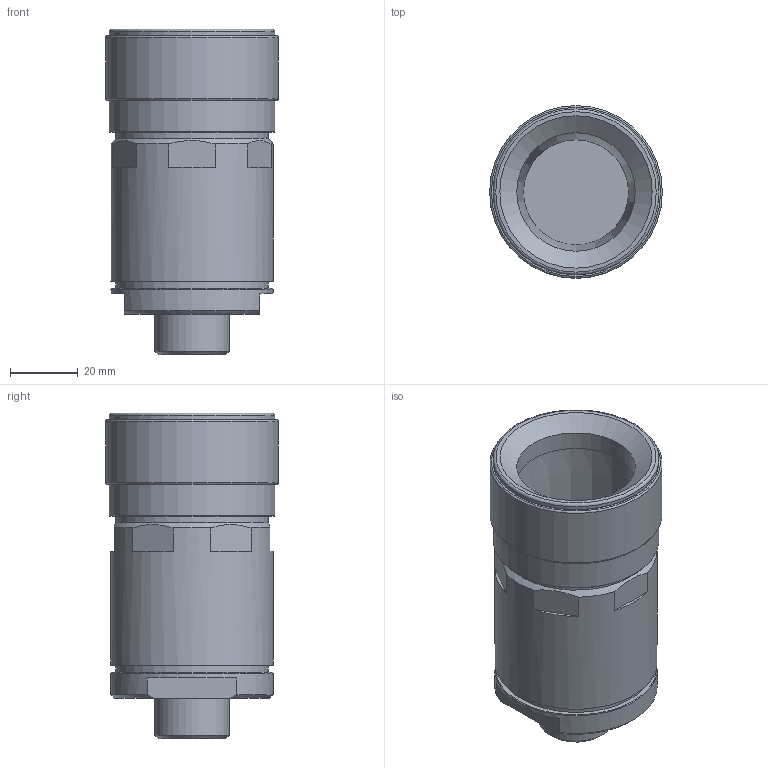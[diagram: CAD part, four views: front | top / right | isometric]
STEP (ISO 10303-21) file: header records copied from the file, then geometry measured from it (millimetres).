
FILE_DESCRIPTION(('STEP AP203'),'1');
FILE_NAME(').stp','2021-06-21T07:32:39',(' '),(' '),'Spatial InterOp 3D',' ',' ');
FILE_SCHEMA(('CONFIG_CONTROL_DESIGN'));
Length unit declared in the file: millimetre
Products named in the file (1): 1
Bounding box: 51 x 51 x 96.2 mm (x, y, z)
Volume: 87326.7 mm3; surface area: 26617.2 mm2
Topology: 1 solids, 1 shells, 56 faces, 118 edges, 74 vertices
Faces by surface type: plane 28, cylinder 12, cone 11, torus 5
Full cylindrical faces by diameter (mm): 11.7 x1, 17.5 x1, 22 x1, 31 x1, 35 x1, 45 x2, 48 x2, 49 x2, 51 x1
Entity records: 1434 total; most frequent: CARTESIAN_POINT 281, DIRECTION 246, ORIENTED_EDGE 178, AXIS2_PLACEMENT_3D 110, EDGE_LOOP 92, EDGE_CURVE 89, FACE_OUTER_BOUND 73, VERTEX_POINT 71
